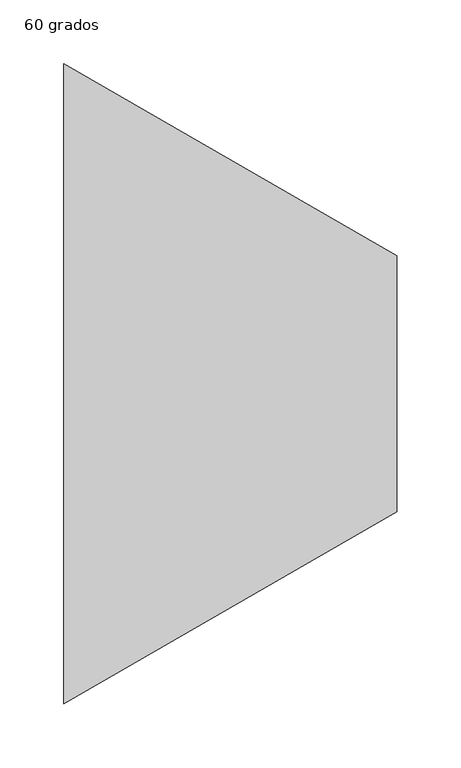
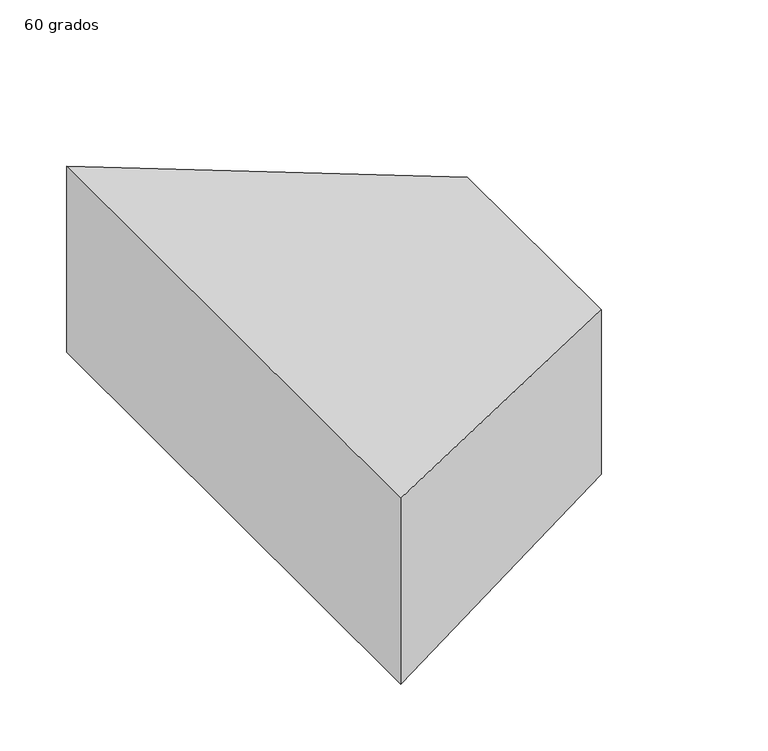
"""IFC4 building model written with IfcOpenShell, lengths in millimetres: duct fitting geometry, M_Transición rectangular - Ángulo : 60 grados."""

import ifcopenshell
import ifcopenshell.guid

model = None  # the IFC model being written
_history = None  # IfcOwnerHistory: only IFC2X3 demands one
_inside = {}  # id of a spatial element -> (the spatial element, [elements in it])
_under = {}  # id of a project, library or spatial element -> (it, [spatial elements below it])
_declared = {}  # id of a project -> (the project, [libraries it declares])
_typed = {}  # id of a type object -> (the type object, [elements of that type])
_made_of = {}  # id of a material, layer set ... -> (it, [elements and type objects made of it])


def new_model(schema):
    """Start an empty IFC model of exactly this schema.

    Asked for "IFC4X3", IfcOpenShell would pick the latest addendum, in which some entities
    have other attributes; the version numbers below select the first issue.
    IFC2X3 requires an IfcOwnerHistory on every rooted entity: one is made here for all.
    """
    global model, _history
    if schema == "IFC4X3":
        model = ifcopenshell.file(schema_version=(4, 3, 0, 0))
    else:
        model = ifcopenshell.file(schema=schema)
    _inside.clear()
    _under.clear()
    _declared.clear()
    _typed.clear()
    _made_of.clear()
    _history = None
    if model.schema == "IFC2X3":
        org = make("IfcOrganization", Name="unknown")
        user = make(
            "IfcPersonAndOrganization",
            ThePerson=make("IfcPerson", FamilyName="unknown"),
            TheOrganization=org,
        )
        app = make(
            "IfcApplication",
            ApplicationDeveloper=org,
            Version="unknown",
            ApplicationFullName="unknown",
            ApplicationIdentifier="unknown",
        )
        _history = make(
            "IfcOwnerHistory",
            OwningUser=user,
            OwningApplication=app,
            ChangeAction="ADDED",
            CreationDate=0,
        )
    return model


def make(cls, **values):
    """One entity of the class cls with the attributes given. An attribute that is None is left unset."""
    return model.create_entity(
        cls, **{name: value for name, value in values.items() if value is not None}
    )


def rooted(cls, **values):
    """An entity with a GlobalId (a new one), such as an element, a storey or a relation."""
    return make(cls, GlobalId=ifcopenshell.guid.new(), OwnerHistory=_history, **values)


def si_unit(unit_type, name, prefix=None):
    """IfcSIUnit, for example si_unit("LENGTHUNIT", "METRE", prefix="MILLI")."""
    return make("IfcSIUnit", UnitType=unit_type, Prefix=prefix, Name=name)


def assignment(units):
    """IfcUnitAssignment: the units of a project."""
    return None if units is None else make("IfcUnitAssignment", Units=units)


def point(xyz):
    """IfcCartesianPoint."""
    return None if xyz is None else make("IfcCartesianPoint", Coordinates=xyz)


def direction(xyz):
    """IfcDirection."""
    return None if xyz is None else make("IfcDirection", DirectionRatios=xyz)


def frame(location, z_axis=None, x_axis=None):
    """IfcAxis2Placement3D, a coordinate frame: its origin and axes. An axis left out is left unset."""
    return make(
        "IfcAxis2Placement3D",
        Location=point(location),
        Axis=direction(z_axis),
        RefDirection=direction(x_axis),
    )


def origin():
    """The frame at (0, 0, 0) with its axes left unset."""
    return frame((0.0, 0.0, 0.0))


def place(relative_to, where):
    """IfcLocalPlacement: puts the frame where relative to a parent placement (None: the world)."""
    return make(
        "IfcLocalPlacement", PlacementRelTo=relative_to, RelativePlacement=where
    )


def context(
    kind, dimensions, precision=None, world=None, true_north=None, identifier=None
):
    """IfcGeometricRepresentationContext, for example the 3D "Model" context."""
    return make(
        "IfcGeometricRepresentationContext",
        ContextIdentifier=identifier,
        ContextType=kind,
        CoordinateSpaceDimension=dimensions,
        Precision=precision,
        WorldCoordinateSystem=world,
        TrueNorth=true_north,
    )


def project(units=None, contexts=None):
    """IfcProject with its units and contexts."""
    return rooted(
        "IfcProject",
        Name="project",
        RepresentationContexts=contexts,
        UnitsInContext=assignment(units),
    )


def spatial(cls, under=None, at=None, **own):
    """A site, building, storey or space (cls), placed at a placement, below another one or the project."""
    s = rooted(cls, ObjectPlacement=at, **own)
    if under is not None:
        _under.setdefault(under.id(), (under, []))[1].append(s)
    return s


def faces_of(points, faces, orient=None, outer=None):
    """IfcFace entities. A face is a list of loops; a loop is a list of indices into points, from 0.

    orient and outer hold one flag for each loop. By default every Orientation is true, the
    first loop of a face is its IfcFaceOuterBound and the others are IfcFaceBound.
    """
    made = []
    for i, loops in enumerate(faces):
        bounds = []
        for j, loop in enumerate(loops):
            is_outer = j == 0 if outer is None else outer[i][j]
            bounds.append(
                make(
                    "IfcFaceOuterBound" if is_outer else "IfcFaceBound",
                    Bound=make("IfcPolyLoop", Polygon=[points[k] for k in loop]),
                    Orientation=True if orient is None else orient[i][j],
                )
            )
        made.append(make("IfcFace", Bounds=bounds))
    return made


def faceted_brep(points, faces, orient=None, outer=None, voids=None):
    """IfcFacetedBrep: a solid bounded by flat faces; with voids (closed shells), ...WithVoids."""
    shared = [point(p) for p in points]
    hull = make("IfcClosedShell", CfsFaces=faces_of(shared, faces, orient, outer))
    if voids is None:
        return make("IfcFacetedBrep", Outer=hull)
    return make(
        "IfcFacetedBrepWithVoids",
        Outer=hull,
        Voids=[
            make(cls, CfsFaces=faces_of(shared, fs, o, b)) for cls, fs, o, b in voids
        ],
    )


def shape(context_of_items, identifier, shape_type, items):
    """IfcShapeRepresentation: the items that make up one representation, for example the "Body"."""
    return make(
        "IfcShapeRepresentation",
        ContextOfItems=context_of_items,
        RepresentationIdentifier=identifier,
        RepresentationType=shape_type,
        Items=items,
    )


def source(mapping_origin, context_of_items, identifier, shape_type, items):
    """IfcRepresentationMap: a shape defined once, which mapped items show again and again."""
    return make(
        "IfcRepresentationMap",
        MappingOrigin=mapping_origin,
        MappedRepresentation=shape(context_of_items, identifier, shape_type, items),
    )


def transform(
    local_origin,
    x_axis=None,
    y_axis=None,
    z_axis=None,
    scale=None,
    scale2=None,
    scale3=None,
    uniform=True,
):
    """IfcCartesianTransformationOperator3D, or its non-uniform kind. x_axis, y_axis, z_axis: its Axis1, 2, 3."""
    if uniform:
        return make(
            "IfcCartesianTransformationOperator3D",
            Axis1=direction(x_axis),
            Axis2=direction(y_axis),
            LocalOrigin=point(local_origin),
            Scale=scale,
            Axis3=direction(z_axis),
        )
    return make(
        "IfcCartesianTransformationOperator3DnonUniform",
        Axis1=direction(x_axis),
        Axis2=direction(y_axis),
        LocalOrigin=point(local_origin),
        Scale=scale,
        Axis3=direction(z_axis),
        Scale2=scale2,
        Scale3=scale3,
    )


def mapped(mapping_source, mapping_target):
    """IfcMappedItem: shows the shape of a source again, moved by a transform."""
    return make(
        "IfcMappedItem", MappingSource=mapping_source, MappingTarget=mapping_target
    )


def made_of(thing, what):
    """Note that an element or type object is made of a material, layer set ...; save() writes the relation."""
    if what is not None:
        _made_of.setdefault(what.id(), (what, []))[1].append(thing)
    return thing


def element(
    cls,
    number,
    at=None,
    inside=None,
    cuts=None,
    type_object=None,
    material=None,
    context=None,
    identifier="Body",
    shape_type=None,
    held_by="IfcProductDefinitionShape",
    body=None,
    shapes=None,
    **own,
):
    """One element of the class cls, such as IfcWall. Its Tag is "e" and its number.

    at: its placement. inside: the storey or other place that contains it. cuts: it is an
    opening in that element (IfcRelVoidsElement). A single representation is given by context,
    identifier, shape_type and body (its items); several are given by shapes. held_by: the class
    of the entity that holds the representations. save() writes the other relations.
    """
    e = rooted(cls, Tag="e%d" % number, ObjectPlacement=at, **own)
    if body is not None:
        shapes = [shape(context, identifier, shape_type, body)]
    if shapes is not None:
        e.Representation = make(held_by, Representations=shapes)
    if inside is not None:
        _inside.setdefault(inside.id(), (inside, []))[1].append(e)
    if cuts is not None:
        rooted(
            "IfcRelVoidsElement", RelatingBuildingElement=cuts, RelatedOpeningElement=e
        )
    if type_object is not None:
        _typed.setdefault(type_object.id(), (type_object, []))[1].append(e)
    return made_of(e, material)


def aggregate(whole, parts):
    """IfcRelAggregates: a whole, such as a stair, and the parts it consists of."""
    return rooted("IfcRelAggregates", RelatingObject=whole, RelatedObjects=parts)


def save(model, path):
    """Write the relations noted so far, then the file.

    IfcRelAggregates (storeys below a building ...), IfcRelContainedInSpatialStructure (elements
    in a storey), IfcRelDefinesByType, IfcRelAssociatesMaterial and IfcRelDeclares: one each for
    every whole, place, type object, material and project.
    """
    for whole, parts in _under.values():
        aggregate(whole, parts)
    for where, things in _inside.values():
        rooted(
            "IfcRelContainedInSpatialStructure",
            RelatedElements=things,
            RelatingStructure=where,
        )
    for kind, things in _typed.values():
        rooted("IfcRelDefinesByType", RelatedObjects=things, RelatingType=kind)
    for what, things in _made_of.values():
        rooted("IfcRelAssociatesMaterial", RelatedObjects=things, RelatingMaterial=what)
    for by, libraries in _declared.values():
        rooted("IfcRelDeclares", RelatingContext=by, RelatedDefinitions=libraries)
    model.write(path)


def duct_fitting_60_grados_138f81dc(model_context):
    return source(origin(), model_context, "Body", "Brep", [
        faceted_brep([(259.8076211, -100.0, 75.0), (259.8076211, -100.0, -75.0), (259.8076211, 100.0, -75.0), (259.8076211, 100.0, 75.0), (0.0, -250.0, 85.0), (0.0, 250.0, 85.0), (0.0, 250.0, -85.0), (0.0, -250.0, -85.0)], [[[0, 1, 2, 3]], [[4, 5, 6, 7]], [[4, 7, 1, 0]], [[7, 6, 2, 1]], [[6, 5, 3, 2]], [[5, 4, 0, 3]]]),
    ])


if __name__ == "__main__":
    model = new_model("IFC4")
    model_context = context("Model", 3, world=origin())
    ifc_project = project(units=[si_unit("LENGTHUNIT", "METRE", prefix="MILLI")], contexts=[model_context])
    site = spatial("IfcSite", under=ifc_project)
    building = spatial("IfcBuilding", under=site)
    placement = place(None, origin())
    duct_fitting_60_grados_shape = duct_fitting_60_grados_138f81dc(model_context)
    element("IfcDuctFitting", 1, ObjectType="M_Transición rectangular - Ángulo : 60 grados", at=placement, inside=building, context=model_context, shape_type="MappedRepresentation", body=[
        mapped(duct_fitting_60_grados_shape, transform((0.0, 0.0, 0.0), x_axis=(1.0, 0.0, 0.0), y_axis=(0.0, 1.0, 0.0), z_axis=(0.0, 0.0, 1.0))),
    ])
    save(model, "model.ifc")
